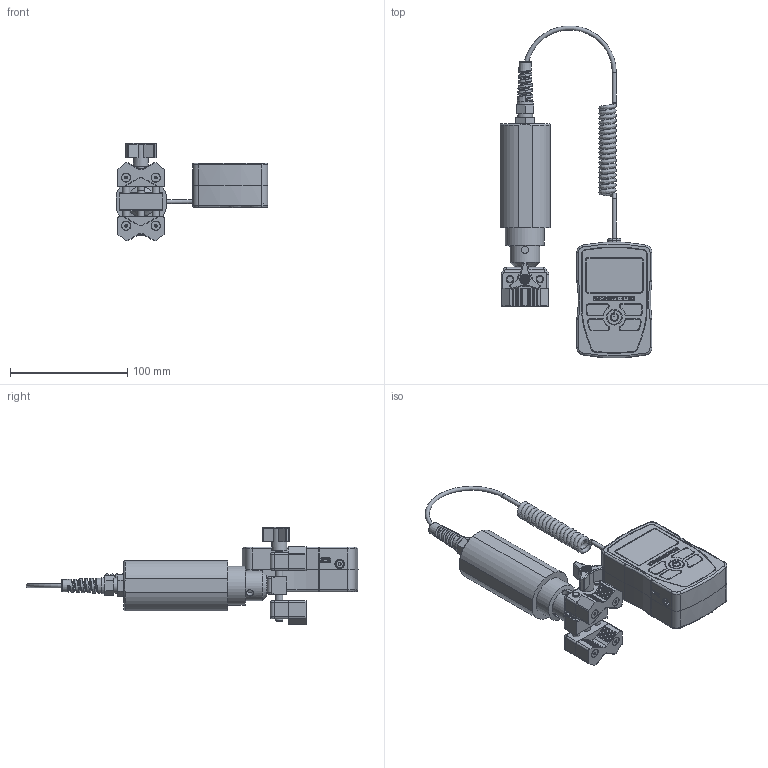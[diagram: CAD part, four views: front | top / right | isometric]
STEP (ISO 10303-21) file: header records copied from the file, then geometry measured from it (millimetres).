
FILE_DESCRIPTION((''),'2;1');
FILE_NAME('F:\CAD files\Itr\3D MARKETING MODELS\TORQUE GAUGES\TT03C\TT03C_10Z_20Z_50Z.stp','2017-06-01T10:35:10',('mlampen'),(''),'Autodesk Inventor 2010','Autodesk Inventor 2010','');
FILE_SCHEMA(('AUTOMOTIVE_DESIGN { 1 0 10303 214 1 1 1 1 }'));
Length unit declared in the file: inch
Products named in the file (6): Assembly1; Part2; Part4; Part6; Part8; Part10
Assembly tree (5 placements, depth 2):
  Assembly1
    Part2
    Part4
    Part6
    Part8
    Part10
Bounding box: 129.78 x 283.75 x 83.13 mm (x, y, z)
Volume: 450691.1 mm3; surface area: 82725.2 mm2
Topology: 9 solids, 9 shells, 1352 faces, 3351 edges, 2140 vertices
Faces by surface type: plane 717, cylinder 347, bspline 134, cone 101, torus 47, sphere 6
Full cylindrical faces by diameter (mm): 0.127 x1, 0.381 x1, 0.635 x1, 0.889 x1, 1.041 x12, 1.143 x1, 1.397 x1, 1.651 x1, 1.905 x1, 2.159 x1, 2.413 x1, 2.5 x1, 2.667 x1, 2.921 x1, 3.175 x1, 3.429 x4, 3.505 x4, 3.683 x1, 3.81 x9, 3.937 x1, 4 x2, 4.191 x1, 4.445 x1, 4.699 x1, 4.826 x3, 4.953 x1, 5.207 x1, 5.461 x1, 5.486 x2, 5.715 x1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
Entity records: 45444 total; most frequent: CARTESIAN_POINT 14600, ORIENTED_EDGE 6180, DIRECTION 6164, EDGE_CURVE 3090, AXIS2_PLACEMENT_3D 2159, VERTEX_POINT 2068, VECTOR 1846, LINE 1846
